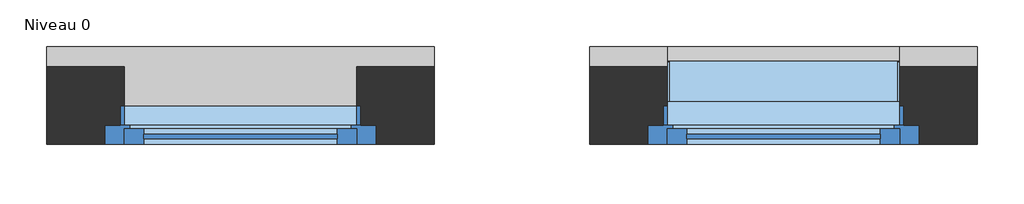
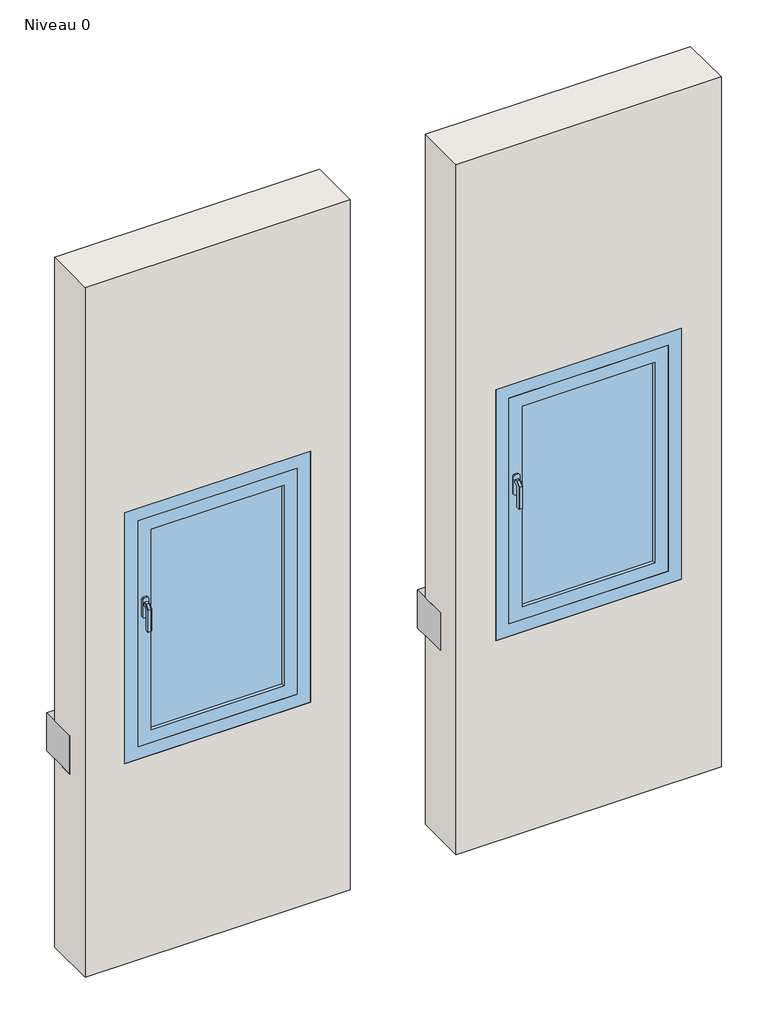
# One storey: 2 proxies, 2 walls, 2 windows.
"""IFC4 building model written with IfcOpenShell, lengths in millimetres."""

from ifc_helpers import new_model, si_unit, origin, place, context, project, spatial, faceted_brep, transform, mapped, element, save
from components import window_1_vantail_droit_70fa9492

model = new_model("IFC4")

# Units and contexts
model_context = context("Model", 3, world=origin())
ifc_project = project(units=[si_unit("LENGTHUNIT", "METRE", prefix="MILLI")], contexts=[model_context])

# Site, building, storey
site = spatial("IfcSite", under=ifc_project)
building = spatial("IfcBuilding", under=site)
storey = spatial("IfcBuildingStorey", under=building, Name="Niveau 0", Elevation=0.0)

# Proxies
placement = place(None, origin())
element("IfcBuildingElementProxy", 1, Name="Wall Sweeps", at=placement, inside=storey, context=model_context, shape_type="Brep", body=[
    faceted_brep([(-14410.1940757, 760.8695866, 750.0), (-14410.1940757, 760.8695866, 902.4), (-14410.1940757, 860.8695866, 902.4), (-14410.1940757, 913.2695866, 902.4), (-14410.1940757, 913.2695866, 750.0), (-14410.1940757, 860.8695866, 750.0), (-13410.1940757, 760.8695866, 750.0), (-13410.1940757, 860.8695866, 750.0), (-13410.1940757, 913.2695866, 750.0), (-13410.1940757, 913.2695866, 902.4), (-13410.1940757, 860.8695866, 902.4), (-13410.1940757, 760.8695866, 902.4), (-13600.1940757, 760.8695866, 902.4), (-13610.1940757, 760.8695866, 902.4), (-14210.1940757, 760.8695866, 902.4), (-14220.1940757, 760.8695866, 902.4)], [[[0, 1, 2, 3, 4, 5]], [[6, 7, 8, 9, 10, 11]], [[1, 0, 6, 11, 12, 13, 14, 15]], [[3, 2, 1, 15, 14, 13, 12, 11, 10, 9]], [[4, 3, 9, 8]], [[0, 5, 4, 8, 7, 6]]]),
])
element("IfcBuildingElementProxy", 2, Name="Wall Sweeps", at=placement, inside=storey, context=model_context, shape_type="Brep", body=[
    faceted_brep([(-13010.1940757, 760.8695866, 750.0), (-13010.1940757, 760.8695866, 902.4), (-13010.1940757, 860.8695866, 902.4), (-13010.1940757, 913.2695866, 902.4), (-13010.1940757, 913.2695866, 750.0), (-13010.1940757, 860.8695866, 750.0), (-12010.1940757, 760.8695866, 902.4), (-12010.1940757, 760.8695866, 750.0), (-12010.1940757, 860.8695866, 750.0), (-12010.1940757, 913.2695866, 750.0), (-12010.1940757, 913.2695866, 902.4), (-12010.1940757, 860.8695866, 902.4), (-12200.1940757, 760.8695866, 902.4), (-12210.1940757, 760.8695866, 902.4), (-12210.1940757, 760.8695866, 800.0), (-12210.1940757, 760.8695866, 782.8979153), (-12810.1940757, 760.8695866, 782.8979153), (-12810.1940757, 760.8695866, 800.0), (-12810.1940757, 760.8695866, 902.4), (-12820.1940757, 760.8695866, 902.4), (-12810.1940757, 860.8695866, 902.4), (-12810.1940757, 913.2695866, 902.4), (-12210.1940757, 913.2695866, 902.4), (-12210.1940757, 860.8695866, 902.4), (-12810.1940757, 913.2695866, 766.8800298), (-12210.1940757, 913.2695866, 766.8800298)], [[[0, 1, 2, 3, 4, 5]], [[6, 7, 8, 9, 10, 11]], [[1, 0, 7, 6, 12, 13, 14, 15, 16, 17, 18, 19]], [[3, 2, 1, 19, 18, 20, 21]], [[6, 11, 10, 22, 23, 13, 12]], [[4, 3, 21, 24, 25, 22, 10, 9]], [[0, 5, 4, 9, 8, 7]], [[16, 24, 21, 20, 18, 17]], [[25, 15, 14, 13, 23, 22]], [[24, 16, 15, 25]]]),
])

# Walls
element("IfcWall", 3, ObjectType="Mur à composition verticale non déc.", at=placement, inside=storey, context=model_context, shape_type="Brep", body=[
    faceted_brep([(-14410.1940757, 660.8695866, 0.0), (-13410.1940757, 660.8695866, 0.0), (-13410.1940757, 660.8695866, 2750.0), (-14410.1940757, 660.8695866, 2750.0), (-13560.1940757, 660.8695866, 800.0), (-14260.1940757, 660.8695866, 800.0), (-14260.1940757, 660.8695866, 1800.0), (-13560.1940757, 660.8695866, 1800.0), (-13410.1940757, 860.8695866, 0.0), (-14410.1940757, 860.8695866, 0.0), (-14410.1940757, 860.8695866, 750.0), (-13410.1940757, 860.8695866, 750.0), (-14410.1940757, 860.8695866, 2750.0), (-13410.1940757, 860.8695866, 2750.0), (-13410.1940757, 860.8695866, 902.4), (-13610.1940757, 860.8695866, 902.4), (-13610.1940757, 860.8695866, 1750.0), (-14210.1940757, 860.8695866, 1750.0), (-14210.1940757, 860.8695866, 902.4), (-14410.1940757, 860.8695866, 902.4), (-14210.1940757, 740.8695866, 800.0), (-14210.1940757, 740.8695866, 785.0), (-14210.1940757, 760.8695866, 782.8979153), (-14210.1940757, 760.8695866, 800.0), (-14210.1940757, 760.8695866, 1750.0), (-14210.1940757, 760.8695866, 902.4), (-13610.1940757, 740.8695866, 785.0), (-13610.1940757, 740.8695866, 800.0), (-13610.1940757, 760.8695866, 800.0), (-13610.1940757, 760.8695866, 782.8979153), (-13610.1940757, 760.8695866, 1750.0), (-13610.1940757, 760.8695866, 902.4), (-14220.1940757, 760.8695866, 800.0), (-14220.1940757, 710.8695866, 800.0), (-14260.1940757, 710.8695866, 800.0), (-13560.1940757, 710.8695866, 800.0), (-13600.1940757, 710.8695866, 800.0), (-13600.1940757, 760.8695866, 800.0), (-14260.1940757, 710.8695866, 1800.0), (-14220.1940757, 710.8695866, 1760.0), (-13600.1940757, 710.8695866, 1760.0), (-13560.1940757, 710.8695866, 1800.0), (-14220.1940757, 760.8695866, 902.4), (-14220.1940757, 760.8695866, 1760.0), (-13600.1940757, 760.8695866, 902.4), (-13600.1940757, 760.8695866, 1760.0), (-13410.1940757, 760.8695866, 750.0), (-14410.1940757, 760.8695866, 750.0), (-14410.1940757, 760.8695866, 902.4), (-13410.1940757, 760.8695866, 902.4)], [[[0, 1, 2, 3], [4, 5, 6, 7]], [[8, 9, 10, 11]], [[12, 13, 14, 15, 16, 17, 18, 19]], [[20, 21, 22, 23]], [[17, 24, 25, 18]], [[26, 27, 28, 29]], [[30, 16, 15, 31]], [[21, 26, 29, 22]], [[21, 20, 27, 26]], [[24, 17, 16, 30]], [[20, 23, 32, 33, 34, 5, 4, 35, 36, 37, 28, 27]], [[5, 34, 38, 6]], [[34, 33, 39, 40, 36, 35, 41, 38]], [[33, 32, 42, 43, 39]], [[24, 30, 31, 44, 45, 43, 42, 25]], [[6, 38, 41, 7]], [[40, 39, 43, 45]], [[35, 4, 7, 41]], [[37, 36, 40, 45, 44]], [[46, 47, 48, 42, 32, 23, 22, 29, 28, 37, 44, 49]], [[49, 44, 31, 15, 14]], [[42, 48, 19, 18, 25]], [[47, 46, 11, 10]], [[1, 0, 9, 8]], [[2, 1, 8, 11, 46, 49, 14, 13]], [[3, 2, 13, 12]], [[0, 3, 12, 19, 48, 47, 10, 9]]]),
])
element("IfcWall", 4, ObjectType="Mur à composition verticale déc.", at=placement, inside=storey, context=model_context, shape_type="Brep", body=[
    faceted_brep([(-13010.1940757, 660.8695866, 0.0), (-12010.1940757, 660.8695866, 0.0), (-12010.1940757, 660.8695866, 2750.0), (-13010.1940757, 660.8695866, 2750.0), (-12160.1940757, 660.8695866, 800.0), (-12860.1940757, 660.8695866, 800.0), (-12860.1940757, 660.8695866, 1800.0), (-12160.1940757, 660.8695866, 1800.0), (-12010.1940757, 860.8695866, 0.0), (-13010.1940757, 860.8695866, 0.0), (-13010.1940757, 860.8695866, 750.0), (-12010.1940757, 860.8695866, 750.0), (-13010.1940757, 860.8695866, 2750.0), (-12010.1940757, 860.8695866, 2750.0), (-12010.1940757, 860.8695866, 902.4), (-12210.1940757, 860.8695866, 902.4), (-12210.1940757, 860.8695866, 1750.0), (-12810.1940757, 860.8695866, 1750.0), (-12810.1940757, 860.8695866, 902.4), (-13010.1940757, 860.8695866, 902.4), (-12810.1940757, 740.8695866, 800.0), (-12810.1940757, 740.8695866, 785.0), (-12810.1940757, 760.8695866, 782.8979153), (-12810.1940757, 760.8695866, 800.0), (-12810.1940757, 760.8695866, 1750.0), (-12810.1940757, 760.8695866, 902.4), (-12210.1940757, 740.8695866, 785.0), (-12210.1940757, 740.8695866, 800.0), (-12210.1940757, 760.8695866, 800.0), (-12210.1940757, 760.8695866, 782.8979153), (-12210.1940757, 760.8695866, 1750.0), (-12210.1940757, 760.8695866, 902.4), (-12820.1940757, 760.8695866, 800.0), (-12820.1940757, 710.8695866, 800.0), (-12860.1940757, 710.8695866, 800.0), (-12160.1940757, 710.8695866, 800.0), (-12200.1940757, 710.8695866, 800.0), (-12200.1940757, 760.8695866, 800.0), (-12860.1940757, 710.8695866, 1800.0), (-12820.1940757, 710.8695866, 1760.0), (-12200.1940757, 710.8695866, 1760.0), (-12160.1940757, 710.8695866, 1800.0), (-12820.1940757, 760.8695866, 902.4), (-12820.1940757, 760.8695866, 1760.0), (-12200.1940757, 760.8695866, 902.4), (-12200.1940757, 760.8695866, 1760.0), (-12010.1940757, 760.8695866, 750.0), (-13010.1940757, 760.8695866, 750.0), (-13010.1940757, 760.8695866, 902.4), (-12010.1940757, 760.8695866, 902.4)], [[[0, 1, 2, 3], [4, 5, 6, 7]], [[8, 9, 10, 11]], [[12, 13, 14, 15, 16, 17, 18, 19]], [[20, 21, 22, 23]], [[17, 24, 25, 18]], [[26, 27, 28, 29]], [[30, 16, 15, 31]], [[21, 26, 29, 22]], [[21, 20, 27, 26]], [[24, 17, 16, 30]], [[20, 23, 32, 33, 34, 5, 4, 35, 36, 37, 28, 27]], [[5, 34, 38, 6]], [[34, 33, 39, 40, 36, 35, 41, 38]], [[33, 32, 42, 43, 39]], [[24, 30, 31, 44, 45, 43, 42, 25]], [[6, 38, 41, 7]], [[40, 39, 43, 45]], [[35, 4, 7, 41]], [[37, 36, 40, 45, 44]], [[46, 47, 48, 42, 32, 23, 22, 29, 28, 37, 44, 49]], [[49, 44, 31, 15, 14]], [[42, 48, 19, 18, 25]], [[47, 46, 11, 10]], [[1, 0, 9, 8]], [[2, 1, 8, 11, 46, 49, 14, 13]], [[3, 2, 13, 12]], [[0, 3, 12, 19, 48, 47, 10, 9]]]),
])

# Windows
window_1_vantail_droit_shape = window_1_vantail_droit_70fa9492(model_context)
element("IfcWindow", 5, ObjectType="1 Vantail - Droit : 0.60 m x 0.95 m - Appui en aluminium", at=placement, inside=storey, context=model_context, shape_type="MappedRepresentation", body=[
    mapped(window_1_vantail_droit_shape, transform((-13910.1940757, 760.8695866, 0.0), x_axis=(1.0, 0.0, 0.0), y_axis=(0.0, 1.0, 0.0), z_axis=(0.0, 0.0, 1.0))),
])
element("IfcWindow", 6, ObjectType="1 Vantail - Droit : 0.60 m x 0.95 m - Appui en aluminium", at=placement, inside=storey, context=model_context, shape_type="MappedRepresentation", body=[
    mapped(window_1_vantail_droit_shape, transform((-12510.1940757, 760.8695866, 0.0), x_axis=(1.0, 0.0, 0.0), y_axis=(0.0, 1.0, 0.0), z_axis=(0.0, 0.0, 1.0))),
])

save(model, "model.ifc")
